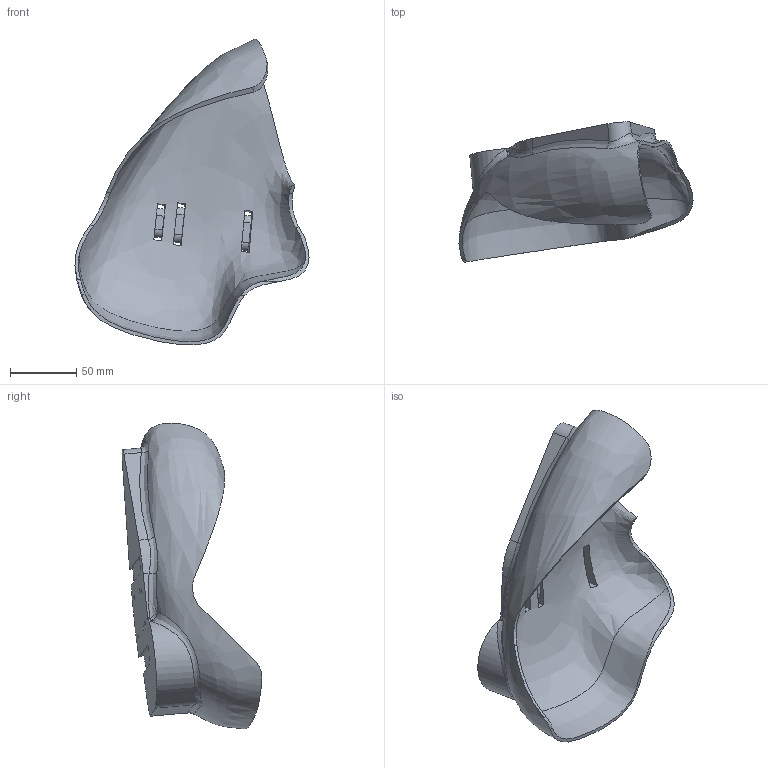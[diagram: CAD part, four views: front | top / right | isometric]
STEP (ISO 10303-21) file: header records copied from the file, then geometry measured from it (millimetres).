
FILE_DESCRIPTION(/* description */ ('STEP AP242','CAx-IF Rec.Pracs.---Representation and Presentation of Product Manufacturing Information (PMI)---4.0---2014-10-13','CAx-IF Rec.Pracs.---3D Tessellated Geometry---0.4---2014-09-14','2;1'),/* implementation_level */ '2;1');
FILE_NAME(/* name */ '65ded182c68ba23d61067cda',/* time_stamp */ '2024-02-28T06:24:03Z',/* author */ (''),/* organization */ (''),/* preprocessor_version */ 'ST-DEVELOPER v19.4',/* originating_system */ ' ',/* authorisation */ ' ');
FILE_SCHEMA (('AP242_MANAGED_MODEL_BASED_3D_ENGINEERING_MIM_LF { 1 0 10303 442 1 1 4 }'));
Length unit declared in the file: metre
Products named in the file (1): Duct 1L
Bounding box: 176.39 x 105.39 x 230.57 mm (x, y, z)
Volume: 275279 mm3; surface area: 97930.9 mm2
Topology: 1 solids, 1 shells, 91 faces, 250 edges, 157 vertices
Faces by surface type: plane 42, bspline 26, cylinder 22, sphere 1
Entity records: 5688 total; most frequent: CARTESIAN_POINT 3573, ORIENTED_EDGE 496, DIRECTION 347, EDGE_CURVE 248, VERTEX_POINT 157, LINE 117, VECTOR 117, AXIS2_PLACEMENT_3D 115
